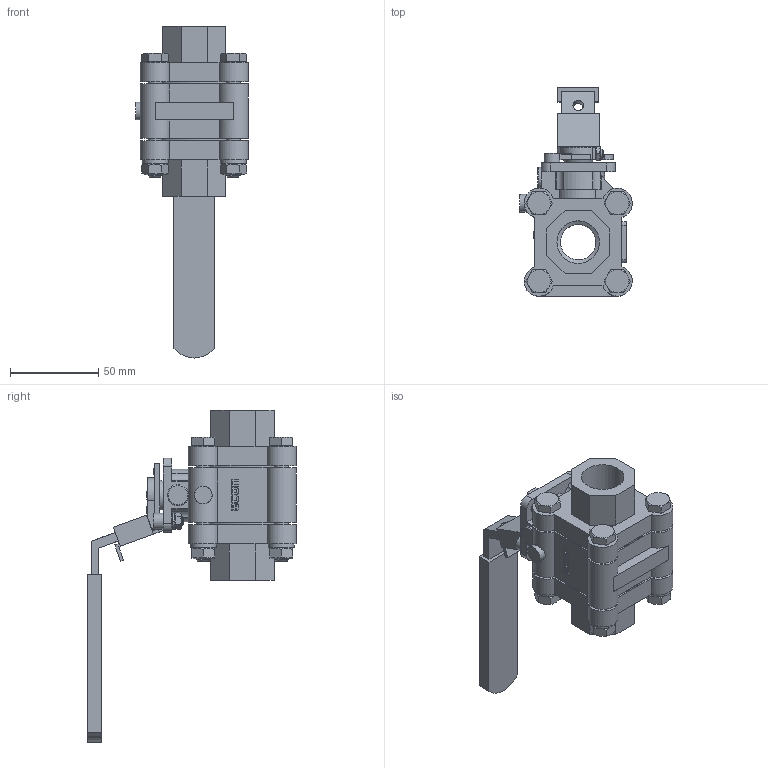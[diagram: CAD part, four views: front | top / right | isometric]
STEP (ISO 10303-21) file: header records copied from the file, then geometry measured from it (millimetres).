
FILE_DESCRIPTION(/* description */ ('Eriks item no: 13278898'),/* implementation_level */ '2;1');
FILE_NAME(/* name */ 'L:\DATA\ENG\Inventor\Econ 3D modellen\kogelkranen\7442\Rubens Versie\7442-DN20-FB.stp',/* time_stamp */ '2023-06-07T22:40:50+02:00',/* author */ ('roger.thijssen'),/* organization */ (''),/* preprocessor_version */ 'ST-DEVELOPER v18',/* originating_system */ 'Autodesk Inventor 2020',/* authorisation */ '');
FILE_SCHEMA (('CONFIG_CONTROL_DESIGN'));
Length unit declared in the file: millimetre
Products named in the file (1): Ball valve, 7442 - 3/4" - FB, (TF4103)
Bounding box: 63.78 x 118.43 x 188.3 mm (x, y, z)
Volume: 223097.5 mm3; surface area: 68096.7 mm2
Topology: 1 solids, 1 shells, 645 faces, 1708 edges, 1117 vertices
Faces by surface type: plane 402, cylinder 149, cone 62, bspline 30, sphere 1, torus 1
Full cylindrical faces by diameter (mm): 5 x4, 5.5 x1, 6 x1, 8 x8, 8.6 x1, 9 x13, 10 x1, 11.6 x4, 12 x1, 20 x1, 23 x1, 24.117 x2, 25 x1, 29 x1, 49.5 x2
Entity records: 20564 total; most frequent: CARTESIAN_POINT 4429, ORIENTED_EDGE 3414, DIRECTION 3210, EDGE_CURVE 1707, VERTEX_POINT 1117, AXIS2_PLACEMENT_3D 1116, LINE 978, VECTOR 978
